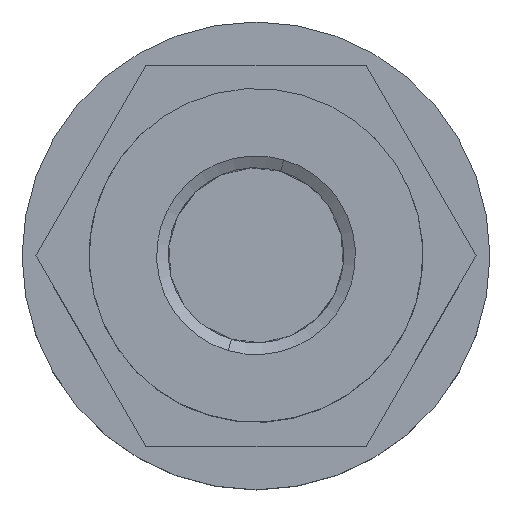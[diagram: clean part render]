
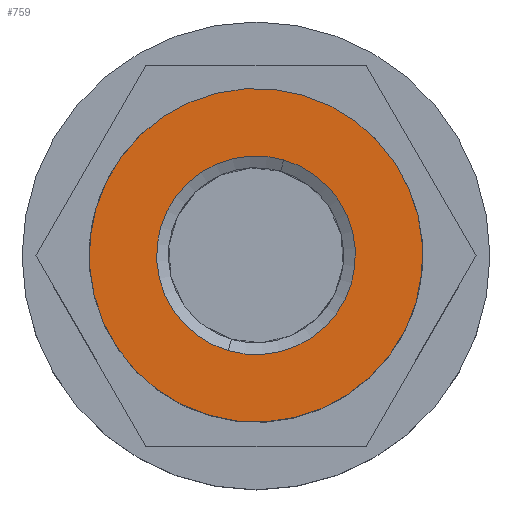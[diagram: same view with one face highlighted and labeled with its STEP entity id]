
A CAD part, top view. The second image highlights one B-rep face of the part: STEP entity #759.
In plain terms, the highlighted planar face has unit normal (0, 0, 1).
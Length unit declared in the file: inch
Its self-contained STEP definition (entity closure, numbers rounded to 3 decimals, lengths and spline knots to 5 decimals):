
#39 = EDGE_CURVE ( 'NONE', #574, #576, #394, .T. ) ;
#43 = EDGE_CURVE ( 'NONE', #576, #574, #391, .T. ) ;
#73 = EDGE_CURVE ( 'NONE', #590, #516, #358, .T. ) ;
#111 = DIRECTION ( 'NONE',  ( 0.281, 0.96, 0. ) ) ;
#112 = DIRECTION ( 'NONE',  ( 0., 0., 1. ) ) ;
#113 = CARTESIAN_POINT ( 'NONE',  ( -3.46879, -1.65199, 1.843 ) ) ;
#121 = DIRECTION ( 'NONE',  ( -0.281, -0.96, 0. ) ) ;
#123 = PLANE ( 'NONE',  #791 ) ;
#125 = CARTESIAN_POINT ( 'NONE',  ( -4.3086, -1.40637, 1.843 ) ) ;
#126 = DIRECTION ( 'NONE',  ( 0., 0., -1. ) ) ;
#180 = DIRECTION ( 'NONE',  ( 0.281, 0.96, 0. ) ) ;
#182 = CARTESIAN_POINT ( 'NONE',  ( -3.46879, -1.65199, 1.843 ) ) ;
#207 = DIRECTION ( 'NONE',  ( 0., 0., 1. ) ) ;
#260 = DIRECTION ( 'NONE',  ( 0.281, 0.96, 0. ) ) ;
#261 = DIRECTION ( 'NONE',  ( 0., 0., 1. ) ) ;
#263 = CARTESIAN_POINT ( 'NONE',  ( -3.46879, -1.65199, 1.843 ) ) ;
#275 = CIRCLE ( 'NONE', #792, 0.875 ) ;
#313 = FACE_BOUND ( 'NONE', #470, .T. ) ;
#321 = FACE_OUTER_BOUND ( 'NONE', #567, .T. ) ;
#358 = CIRCLE ( 'NONE', #805, 0.875 ) ;
#391 = CIRCLE ( 'NONE', #761, 0.5214 ) ;
#394 = CIRCLE ( 'NONE', #762, 0.5214 ) ;
#470 = EDGE_LOOP ( 'NONE', ( #477, #478 ) ) ;
#477 = ORIENTED_EDGE ( 'NONE', *, *, #43, .F. ) ;
#478 = ORIENTED_EDGE ( 'NONE', *, *, #39, .F. ) ;
#479 = ORIENTED_EDGE ( 'NONE', *, *, #73, .T. ) ;
#480 = ORIENTED_EDGE ( 'NONE', *, *, #767, .T. ) ;
#516 = VERTEX_POINT ( 'NONE', #636 ) ;
#567 = EDGE_LOOP ( 'NONE', ( #479, #480 ) ) ;
#574 = VERTEX_POINT ( 'NONE', #631 ) ;
#576 = VERTEX_POINT ( 'NONE', #633 ) ;
#590 = VERTEX_POINT ( 'NONE', #697 ) ;
#631 = CARTESIAN_POINT ( 'NONE',  ( -3.61515, -2.15243, 1.843 ) ) ;
#633 = CARTESIAN_POINT ( 'NONE',  ( -3.32242, -1.15156, 1.843 ) ) ;
#636 = CARTESIAN_POINT ( 'NONE',  ( -3.71441, -2.49181, 1.843 ) ) ;
#697 = CARTESIAN_POINT ( 'NONE',  ( -3.22316, -0.81218, 1.843 ) ) ;
#726 = DIRECTION ( 'NONE',  ( 0.281, 0.96, 0. ) ) ;
#727 = DIRECTION ( 'NONE',  ( 0., 0., 1. ) ) ;
#728 = CARTESIAN_POINT ( 'NONE',  ( -3.46879, -1.65199, 1.843 ) ) ;
#759 = ADVANCED_FACE ( 'NONE', ( #313, #321 ), #123, .F. ) ;
#761 = AXIS2_PLACEMENT_3D ( 'NONE', #263, #261, #260 ) ;
#762 = AXIS2_PLACEMENT_3D ( 'NONE', #182, #207, #180 ) ;
#767 = EDGE_CURVE ( 'NONE', #516, #590, #275, .T. ) ;
#791 = AXIS2_PLACEMENT_3D ( 'NONE', #125, #126, #121 ) ;
#792 = AXIS2_PLACEMENT_3D ( 'NONE', #113, #112, #111 ) ;
#805 = AXIS2_PLACEMENT_3D ( 'NONE', #728, #727, #726 ) ;
